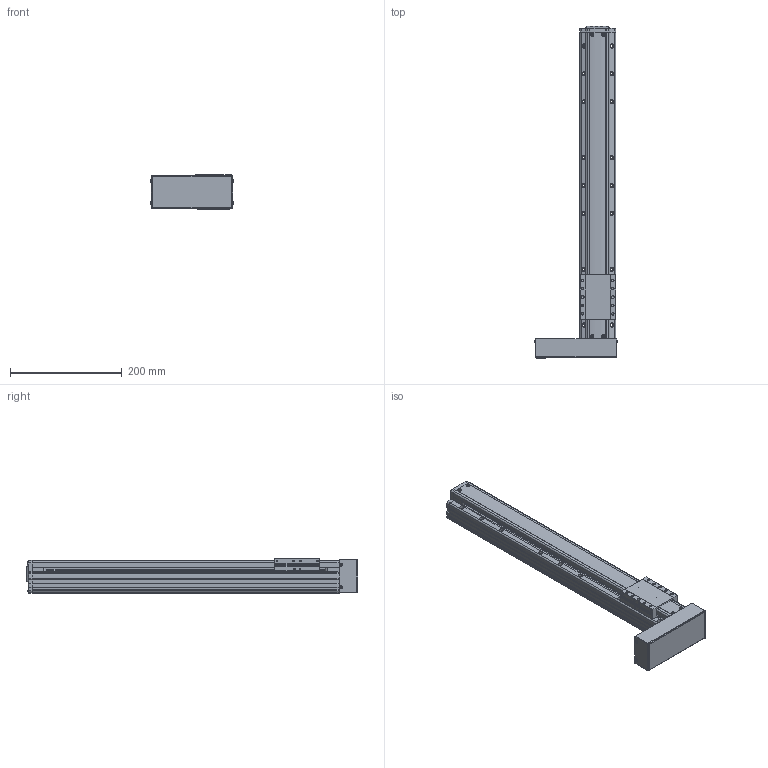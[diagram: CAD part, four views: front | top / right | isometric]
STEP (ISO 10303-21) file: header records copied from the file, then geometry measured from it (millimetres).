
FILE_DESCRIPTION(('STEP AP214'),'1');
FILE_NAME('Z:/Web/3D/PSA65/STP/PSA65-400 (3D)/PSA65ㅁㅁ-400PL.stp','2014-06-25T04:54:54',(' '),(' '),'Spatial InterOp 3D',' ',' ');
FILE_SCHEMA(('automotive_design'));
Length unit declared in the file: millimetre
Products named in the file (49): SLIDE; RRCV-PA060; 1; 2; 3; 4; 5; 6; 7; 8; 9; 10; 11; 12; 13; 14; 15; 16; 17; 18; 19; 20; 21; 22; 23; 24; 25; 26; 27; 28; 29; 30; 31; 스크루 : Round - M3.0 x 8.0; RN8 x 0.75; SHAFT-SAN65; BASE; 스크루 : Round - M3.0 x 6.0; BTCV-SAN65; BHCS M3 X 6L
Bounding box: 149.13 x 594.8 x 62 mm (x, y, z)
Volume: 2007725.6 mm3; surface area: 268731.8 mm2
Topology: 49 solids, 49 shells, 1771 faces, 4691 edges, 2984 vertices
Faces by surface type: plane 1038, cylinder 493, cone 175, sphere 30, bspline 19, torus 16
Entity records: 70232 total; most frequent: CARTESIAN_POINT 11068, DIRECTION 9350, ORIENTED_EDGE 9130, EDGE_CURVE 4565, LINE 3218, VECTOR 3218, AXIS2_PLACEMENT_3D 3066, VERTEX_POINT 2984
